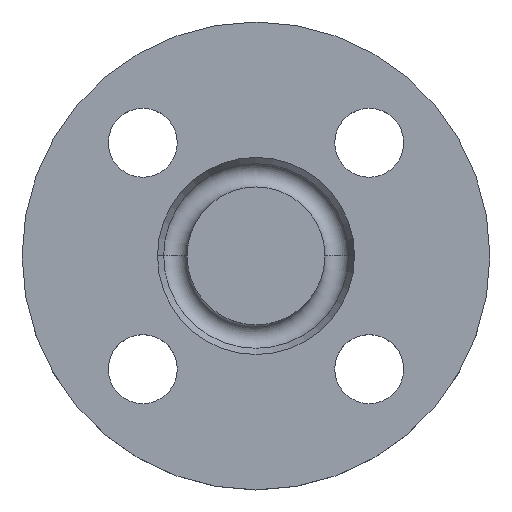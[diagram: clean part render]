
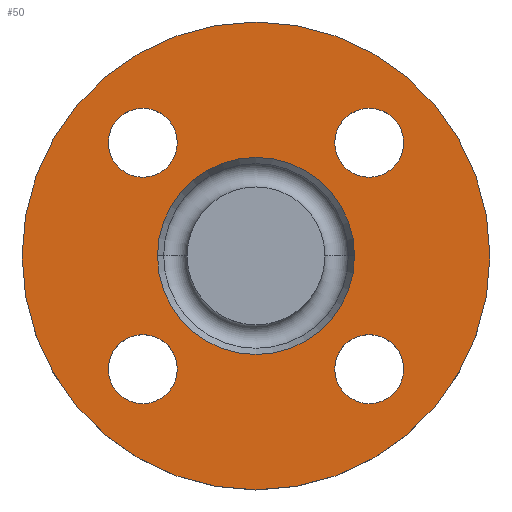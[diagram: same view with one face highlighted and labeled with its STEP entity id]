
A CAD part, top view. The second image highlights one B-rep face of the part: STEP entity #50.
In plain terms, the highlighted planar face has unit normal (0, 0, 1).
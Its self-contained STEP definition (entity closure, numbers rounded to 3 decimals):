
#2 = AXIS2_PLACEMENT_3D ( 'NONE', #131, #128, #129 ) ;
#3 = CIRCLE ( 'NONE', #2, 20. ) ;
#30 = AXIS2_PLACEMENT_3D ( 'NONE', #89, #91, #115 ) ;
#41 = CIRCLE ( 'NONE', #57, 20. ) ;
#50 = ADVANCED_FACE ( 'NONE', ( #603, #605, #606, #607, #608, #609 ), #610, .T. ) ;
#57 = AXIS2_PLACEMENT_3D ( 'NONE', #261, #707, #665 ) ;
#60 = EDGE_CURVE ( 'NONE', #399, #542, #333, .T. ) ;
#65 = CIRCLE ( 'NONE', #66, 7. ) ;
#66 = AXIS2_PLACEMENT_3D ( 'NONE', #264, #265, #271 ) ;
#67 = CIRCLE ( 'NONE', #270, 7. ) ;
#88 = DIRECTION ( 'NONE',  ( 1., 0., 0. ) ) ;
#89 = CARTESIAN_POINT ( 'NONE',  ( 22.981, -22.981, -2. ) ) ;
#91 = DIRECTION ( 'NONE',  ( 0., 0., -1. ) ) ;
#110 = CIRCLE ( 'NONE', #301, 47.5 ) ;
#115 = DIRECTION ( 'NONE',  ( 1., 0., 0. ) ) ;
#116 = EDGE_CURVE ( 'NONE', #517, #390, #305, .T. ) ;
#128 = DIRECTION ( 'NONE',  ( 0., 0., -1. ) ) ;
#129 = DIRECTION ( 'NONE',  ( -1., 0., 0. ) ) ;
#131 = CARTESIAN_POINT ( 'NONE',  ( 0., 0., -2. ) ) ;
#137 = AXIS2_PLACEMENT_3D ( 'NONE', #614, #615, #617 ) ;
#150 = DIRECTION ( 'NONE',  ( 1., 0., 0. ) ) ;
#151 = DIRECTION ( 'NONE',  ( 0., 0., -1. ) ) ;
#153 = EDGE_CURVE ( 'NONE', #473, #546, #110, .T. ) ;
#154 = AXIS2_PLACEMENT_3D ( 'NONE', #723, #724, #725 ) ;
#166 = CARTESIAN_POINT ( 'NONE',  ( 29.981, -22.981, -2. ) ) ;
#181 = DIRECTION ( 'NONE',  ( 0., 0., -1. ) ) ;
#182 = CARTESIAN_POINT ( 'NONE',  ( 22.981, 22.981, -2. ) ) ;
#206 = CARTESIAN_POINT ( 'NONE',  ( 29.981, 22.981, -2. ) ) ;
#208 = CIRCLE ( 'NONE', #30, 7. ) ;
#209 = AXIS2_PLACEMENT_3D ( 'NONE', #182, #181, #88 ) ;
#210 = CIRCLE ( 'NONE', #209, 7. ) ;
#212 = EDGE_CURVE ( 'NONE', #390, #517, #67, .T. ) ;
#217 = AXIS2_PLACEMENT_3D ( 'NONE', #230, #151, #150 ) ;
#220 = CIRCLE ( 'NONE', #217, 7. ) ;
#225 = CIRCLE ( 'NONE', #154, 7. ) ;
#230 = CARTESIAN_POINT ( 'NONE',  ( 22.981, -22.981, -2. ) ) ;
#233 = CIRCLE ( 'NONE', #370, 47.5 ) ;
#236 = CARTESIAN_POINT ( 'NONE',  ( -29.981, 22.981, -2. ) ) ;
#242 = CARTESIAN_POINT ( 'NONE',  ( -20., 0., -2. ) ) ;
#260 = CARTESIAN_POINT ( 'NONE',  ( -15.981, -22.981, -2. ) ) ;
#261 = CARTESIAN_POINT ( 'NONE',  ( 0., 0., -2. ) ) ;
#263 = CARTESIAN_POINT ( 'NONE',  ( 15.981, 22.981, -2. ) ) ;
#264 = CARTESIAN_POINT ( 'NONE',  ( 22.981, 22.981, -2. ) ) ;
#265 = DIRECTION ( 'NONE',  ( 0., 0., -1. ) ) ;
#270 = AXIS2_PLACEMENT_3D ( 'NONE', #658, #659, #660 ) ;
#271 = DIRECTION ( 'NONE',  ( 1., 0., 0. ) ) ;
#289 = CARTESIAN_POINT ( 'NONE',  ( 20., 0., -2. ) ) ;
#301 = AXIS2_PLACEMENT_3D ( 'NONE', #637, #638, #639 ) ;
#302 = CARTESIAN_POINT ( 'NONE',  ( 47.5, 0., -2. ) ) ;
#303 = AXIS2_PLACEMENT_3D ( 'NONE', #629, #630, #631 ) ;
#304 = CARTESIAN_POINT ( 'NONE',  ( 15.981, -22.981, -2. ) ) ;
#305 = CIRCLE ( 'NONE', #303, 7. ) ;
#310 = CARTESIAN_POINT ( 'NONE',  ( -15.981, 22.981, -2. ) ) ;
#311 = CARTESIAN_POINT ( 'NONE',  ( 0., 0., -2. ) ) ;
#312 = DIRECTION ( 'NONE',  ( 0., 0., -1. ) ) ;
#314 = DIRECTION ( 'NONE',  ( -1., 0., 0. ) ) ;
#331 = AXIS2_PLACEMENT_3D ( 'NONE', #611, #612, #613 ) ;
#333 = CIRCLE ( 'NONE', #137, 7. ) ;
#335 = EDGE_CURVE ( 'NONE', #542, #399, #225, .T. ) ;
#362 = CARTESIAN_POINT ( 'NONE',  ( -29.981, -22.981, -2. ) ) ;
#363 = CARTESIAN_POINT ( 'NONE',  ( -47.5, 0., -2. ) ) ;
#367 = EDGE_CURVE ( 'NONE', #563, #485, #220, .T. ) ;
#370 = AXIS2_PLACEMENT_3D ( 'NONE', #311, #312, #314 ) ;
#372 = EDGE_CURVE ( 'NONE', #570, #401, #210, .T. ) ;
#376 = EDGE_CURVE ( 'NONE', #485, #563, #208, .T. ) ;
#383 = EDGE_CURVE ( 'NONE', #391, #445, #41, .T. ) ;
#387 = EDGE_LOOP ( 'NONE', ( #466, #468 ) ) ;
#390 = VERTEX_POINT ( 'NONE', #236 ) ;
#391 = VERTEX_POINT ( 'NONE', #242 ) ;
#397 = EDGE_LOOP ( 'NONE', ( #471, #474 ) ) ;
#399 = VERTEX_POINT ( 'NONE', #260 ) ;
#401 = VERTEX_POINT ( 'NONE', #263 ) ;
#414 = EDGE_CURVE ( 'NONE', #401, #570, #65, .T. ) ;
#427 = EDGE_LOOP ( 'NONE', ( #460, #461 ) ) ;
#445 = VERTEX_POINT ( 'NONE', #289 ) ;
#458 = ORIENTED_EDGE ( 'NONE', *, *, #367, .T. ) ;
#459 = ORIENTED_EDGE ( 'NONE', *, *, #376, .T. ) ;
#460 = ORIENTED_EDGE ( 'NONE', *, *, #60, .T. ) ;
#461 = ORIENTED_EDGE ( 'NONE', *, *, #335, .T. ) ;
#463 = ORIENTED_EDGE ( 'NONE', *, *, #116, .T. ) ;
#464 = ORIENTED_EDGE ( 'NONE', *, *, #212, .T. ) ;
#466 = ORIENTED_EDGE ( 'NONE', *, *, #372, .T. ) ;
#468 = ORIENTED_EDGE ( 'NONE', *, *, #414, .T. ) ;
#469 = ORIENTED_EDGE ( 'NONE', *, *, #643, .T. ) ;
#470 = ORIENTED_EDGE ( 'NONE', *, *, #383, .T. ) ;
#471 = ORIENTED_EDGE ( 'NONE', *, *, #153, .F. ) ;
#473 = VERTEX_POINT ( 'NONE', #302 ) ;
#474 = ORIENTED_EDGE ( 'NONE', *, *, #518, .F. ) ;
#485 = VERTEX_POINT ( 'NONE', #304 ) ;
#517 = VERTEX_POINT ( 'NONE', #310 ) ;
#518 = EDGE_CURVE ( 'NONE', #546, #473, #233, .T. ) ;
#534 = EDGE_LOOP ( 'NONE', ( #458, #459 ) ) ;
#542 = VERTEX_POINT ( 'NONE', #362 ) ;
#546 = VERTEX_POINT ( 'NONE', #363 ) ;
#547 = EDGE_LOOP ( 'NONE', ( #463, #464 ) ) ;
#563 = VERTEX_POINT ( 'NONE', #166 ) ;
#570 = VERTEX_POINT ( 'NONE', #206 ) ;
#574 = EDGE_LOOP ( 'NONE', ( #469, #470 ) ) ;
#603 = FACE_BOUND ( 'NONE', #534, .T. ) ;
#605 = FACE_BOUND ( 'NONE', #427, .T. ) ;
#606 = FACE_BOUND ( 'NONE', #547, .T. ) ;
#607 = FACE_BOUND ( 'NONE', #387, .T. ) ;
#608 = FACE_BOUND ( 'NONE', #574, .T. ) ;
#609 = FACE_OUTER_BOUND ( 'NONE', #397, .T. ) ;
#610 = PLANE ( 'NONE',  #331 ) ;
#611 = CARTESIAN_POINT ( 'NONE',  ( 47.5, 0., -2. ) ) ;
#612 = DIRECTION ( 'NONE',  ( 0., 0., 1. ) ) ;
#613 = DIRECTION ( 'NONE',  ( 1., 0., 0. ) ) ;
#614 = CARTESIAN_POINT ( 'NONE',  ( -22.981, -22.981, -2. ) ) ;
#615 = DIRECTION ( 'NONE',  ( 0., 0., -1. ) ) ;
#617 = DIRECTION ( 'NONE',  ( 1., 0., 0. ) ) ;
#629 = CARTESIAN_POINT ( 'NONE',  ( -22.981, 22.981, -2. ) ) ;
#630 = DIRECTION ( 'NONE',  ( 0., 0., -1. ) ) ;
#631 = DIRECTION ( 'NONE',  ( 1., 0., 0. ) ) ;
#637 = CARTESIAN_POINT ( 'NONE',  ( 0., 0., -2. ) ) ;
#638 = DIRECTION ( 'NONE',  ( 0., 0., -1. ) ) ;
#639 = DIRECTION ( 'NONE',  ( -1., 0., 0. ) ) ;
#643 = EDGE_CURVE ( 'NONE', #445, #391, #3, .T. ) ;
#658 = CARTESIAN_POINT ( 'NONE',  ( -22.981, 22.981, -2. ) ) ;
#659 = DIRECTION ( 'NONE',  ( 0., 0., -1. ) ) ;
#660 = DIRECTION ( 'NONE',  ( 1., 0., 0. ) ) ;
#665 = DIRECTION ( 'NONE',  ( -1., 0., 0. ) ) ;
#707 = DIRECTION ( 'NONE',  ( 0., 0., -1. ) ) ;
#723 = CARTESIAN_POINT ( 'NONE',  ( -22.981, -22.981, -2. ) ) ;
#724 = DIRECTION ( 'NONE',  ( 0., 0., -1. ) ) ;
#725 = DIRECTION ( 'NONE',  ( 1., 0., 0. ) ) ;
